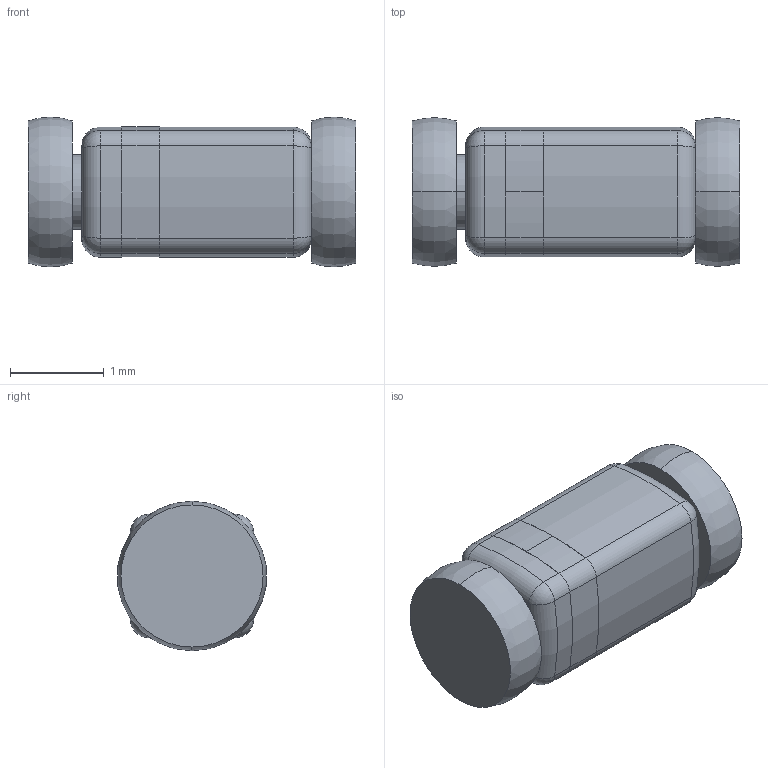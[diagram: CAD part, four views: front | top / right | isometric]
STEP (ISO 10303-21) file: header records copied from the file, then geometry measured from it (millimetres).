
FILE_DESCRIPTION (( 'STEP AP214' ), '1' );
FILE_NAME ('LS4148(LS4448).STEP', '2023-12-16T11:00:30', ( '' ), ( '' ), 'SwSTEP 2.0', 'SolidWorks 2021', '' );
FILE_SCHEMA (( 'AUTOMOTIVE_DESIGN' ));
Length unit declared in the file: millimetre
Products named in the file (1): LS4148(LS4448)
Bounding box: 3.5 x 1.59 x 1.6 mm (x, y, z)
Volume: 6.2 mm3; surface area: 32.4 mm2
Topology: 4 solids, 4 shells, 80 faces, 181 edges, 112 vertices
Faces by surface type: cylinder 47, torus 14, plane 11, sphere 8
Entity records: 2356 total; most frequent: DIRECTION 477, CARTESIAN_POINT 374, ORIENTED_EDGE 362, AXIS2_PLACEMENT_3D 215, EDGE_CURVE 181, CIRCLE 134, VERTEX_POINT 112, EDGE_LOOP 85
